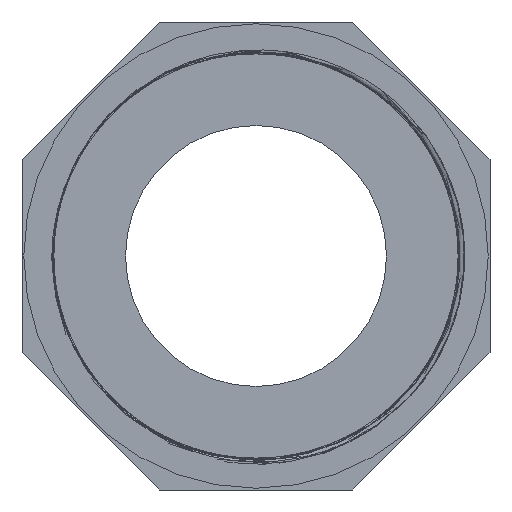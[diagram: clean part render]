
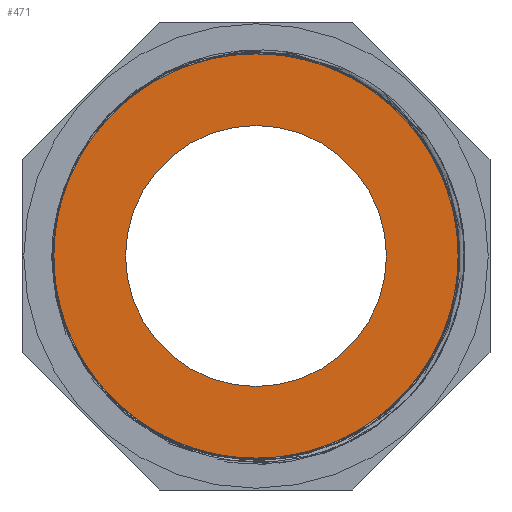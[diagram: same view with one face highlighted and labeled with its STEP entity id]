
A CAD part, front view. The second image highlights one B-rep face of the part: STEP entity #471.
In plain terms, the highlighted planar face has unit normal (0, -1, 0).
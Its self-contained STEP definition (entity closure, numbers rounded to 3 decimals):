
#18=FACE_BOUND('',#159,.T.);
#39=PLANE('',#502);
#126=FACE_OUTER_BOUND('',#158,.T.);
#158=EDGE_LOOP('',(#411));
#159=EDGE_LOOP('',(#412));
#177=CIRCLE('',#501,36.25);
#178=CIRCLE('',#503,56.515);
#242=VERTEX_POINT('',#13247);
#243=VERTEX_POINT('',#13250);
#306=EDGE_CURVE('',#242,#242,#177,.T.);
#307=EDGE_CURVE('',#243,#243,#178,.T.);
#411=ORIENTED_EDGE('',*,*,#307,.F.);
#412=ORIENTED_EDGE('',*,*,#306,.T.);
#471=ADVANCED_FACE('',(#126,#18),#39,.T.);
#501=AXIS2_PLACEMENT_3D('',#13248,#587,#588);
#502=AXIS2_PLACEMENT_3D('',#13249,#589,#590);
#503=AXIS2_PLACEMENT_3D('',#13251,#591,#592);
#587=DIRECTION('center_axis',(0.,1.,0.));
#588=DIRECTION('ref_axis',(1.,0.,0.));
#589=DIRECTION('center_axis',(0.,-1.,0.));
#590=DIRECTION('ref_axis',(0.,0.,-1.));
#591=DIRECTION('center_axis',(0.,1.,0.));
#592=DIRECTION('ref_axis',(1.,0.,0.));
#13247=CARTESIAN_POINT('',(-36.25,46.8,0.));
#13248=CARTESIAN_POINT('Origin',(0.,46.8,0.));
#13249=CARTESIAN_POINT('Origin',(-56.515,46.8,0.));
#13250=CARTESIAN_POINT('',(-56.515,46.8,0.));
#13251=CARTESIAN_POINT('Origin',(0.,46.8,0.));
